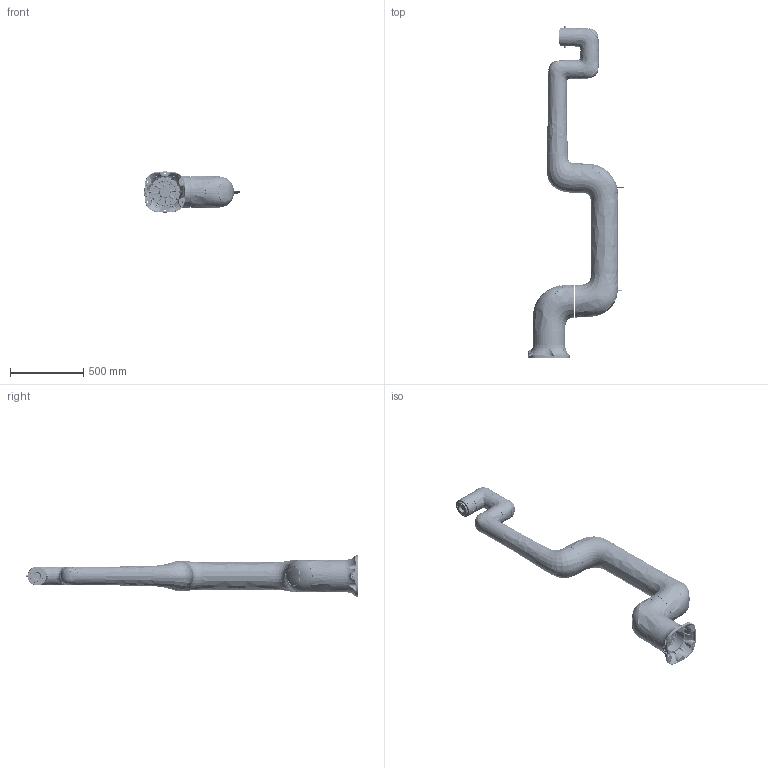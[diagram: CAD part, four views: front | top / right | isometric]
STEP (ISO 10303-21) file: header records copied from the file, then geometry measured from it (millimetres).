
FILE_DESCRIPTION((''),'2;1');
FILE_NAME('CR30_ASM','2025-07-10T15:43:44',('Dobot'),(''),'CREO PARAMETRIC BY PTC INC, 2024153','CREO PARAMETRIC BY PTC INC, 2024153','');
FILE_SCHEMA(('AP242_MANAGED_MODEL_BASED_3D_ENGINEERING_MIM_LF { 1 0 10303 442 1 1 4 }'));
Products named in the file (7): BASE; LINK1; LINK2; LINK3; LINK4; LINK6; CR30_ASM
Assembly tree (7 placements, depth 2):
  CR30_ASM
    BASE
    LINK1
    LINK2
    LINK3
    LINK4  x2
    LINK6
Bounding box: 648.5 x 2262.1 x 280 mm (x, y, z)
Volume: 16077587.6 mm3; surface area: 4799156.4 mm2
Topology: 45 solids, 69 shells, 14079 faces, 33399 edges, 19918 vertices
Faces by surface type: plane 4910, cylinder 4787, cone 1816, bspline 1542, torus 646, extrusion 290, sphere 88
Entity records: 510646 total; most frequent: CARTESIAN_POINT 223451, DIRECTION 56615, ORIENTED_EDGE 55338, EDGE_CURVE 27669, AXIS2_PLACEMENT_3D 22259, VERTEX_POINT 16890, EDGE_LOOP 13377, VECTOR 12097
